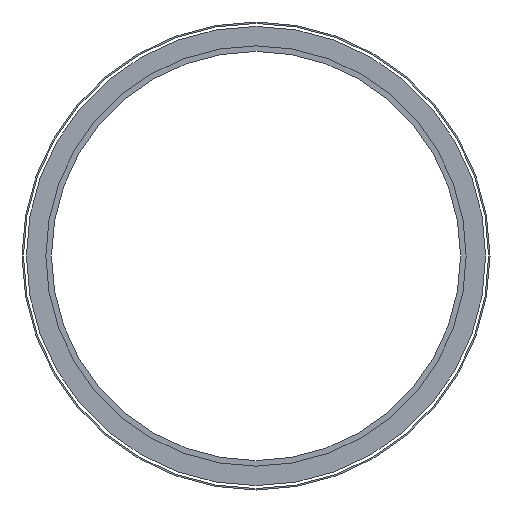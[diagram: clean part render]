
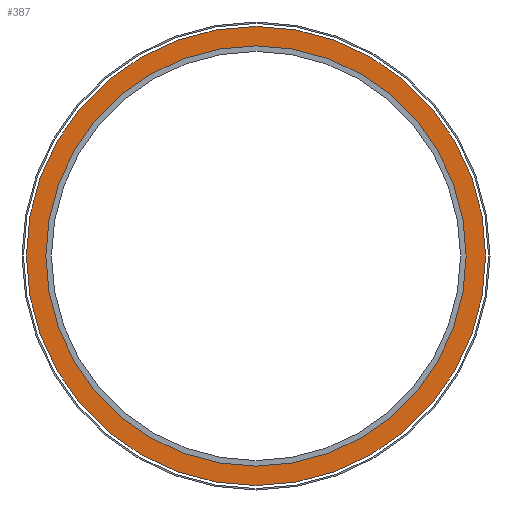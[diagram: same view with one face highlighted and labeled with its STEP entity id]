
A CAD part, front view. The second image highlights one B-rep face of the part: STEP entity #387.
In plain terms, the highlighted planar face has unit normal (0, -1, 0).
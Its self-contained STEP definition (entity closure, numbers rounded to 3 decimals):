
#235 = CYLINDRICAL_SURFACE('',#236,150.);
#236 = AXIS2_PLACEMENT_3D('',#237,#238,#239);
#237 = CARTESIAN_POINT('',(0.,340.,0.));
#238 = DIRECTION('',(-0.,-1.,0.));
#239 = DIRECTION('',(1.,0.,0.));
#282 = VERTEX_POINT('',#283);
#283 = CARTESIAN_POINT('',(150.,340.,0.));
#304 = EDGE_CURVE('',#282,#282,#305,.T.);
#305 = SURFACE_CURVE('',#306,(#311,#318),.PCURVE_S1.);
#306 = CIRCLE('',#307,150.);
#307 = AXIS2_PLACEMENT_3D('',#308,#309,#310);
#308 = CARTESIAN_POINT('',(0.,340.,0.));
#309 = DIRECTION('',(-0.,1.,0.));
#310 = DIRECTION('',(1.,0.,0.));
#311 = PCURVE('',#235,#312);
#312 = DEFINITIONAL_REPRESENTATION('',(#313),#317);
#313 = LINE('',#314,#315);
#314 = CARTESIAN_POINT('',(-0.,0.));
#315 = VECTOR('',#316,1.);
#316 = DIRECTION('',(-1.,0.));
#317 = ( GEOMETRIC_REPRESENTATION_CONTEXT(2) 
PARAMETRIC_REPRESENTATION_CONTEXT() REPRESENTATION_CONTEXT('2D SPACE',''
  ) );
#318 = PCURVE('',#319,#324);
#319 = PLANE('',#320);
#320 = AXIS2_PLACEMENT_3D('',#321,#322,#323);
#321 = CARTESIAN_POINT('',(0.,340.,0.));
#322 = DIRECTION('',(0.,1.,0.));
#323 = DIRECTION('',(1.,0.,0.));
#324 = DEFINITIONAL_REPRESENTATION('',(#325),#329);
#325 = CIRCLE('',#326,150.);
#326 = AXIS2_PLACEMENT_2D('',#327,#328);
#327 = CARTESIAN_POINT('',(0.,0.));
#328 = DIRECTION('',(1.,0.));
#329 = ( GEOMETRIC_REPRESENTATION_CONTEXT(2) 
PARAMETRIC_REPRESENTATION_CONTEXT() REPRESENTATION_CONTEXT('2D SPACE',''
  ) );
#387 = ADVANCED_FACE('',(#388,#419),#319,.F.);
#388 = FACE_BOUND('',#389,.F.);
#389 = EDGE_LOOP('',(#390));
#390 = ORIENTED_EDGE('',*,*,#391,.T.);
#391 = EDGE_CURVE('',#392,#392,#394,.T.);
#392 = VERTEX_POINT('',#393);
#393 = CARTESIAN_POINT('',(163.889,340.,0.));
#394 = SURFACE_CURVE('',#395,(#400,#407),.PCURVE_S1.);
#395 = CIRCLE('',#396,163.889);
#396 = AXIS2_PLACEMENT_3D('',#397,#398,#399);
#397 = CARTESIAN_POINT('',(0.,340.,0.));
#398 = DIRECTION('',(0.,1.,0.));
#399 = DIRECTION('',(1.,0.,-0.));
#400 = PCURVE('',#319,#401);
#401 = DEFINITIONAL_REPRESENTATION('',(#402),#406);
#402 = CIRCLE('',#403,163.889);
#403 = AXIS2_PLACEMENT_2D('',#404,#405);
#404 = CARTESIAN_POINT('',(0.,0.));
#405 = DIRECTION('',(1.,0.));
#406 = ( GEOMETRIC_REPRESENTATION_CONTEXT(2) 
PARAMETRIC_REPRESENTATION_CONTEXT() REPRESENTATION_CONTEXT('2D SPACE',''
  ) );
#407 = PCURVE('',#408,#413);
#408 = CONICAL_SURFACE('',#409,167.024,1.003);
#409 = AXIS2_PLACEMENT_3D('',#410,#411,#412);
#410 = CARTESIAN_POINT('',(0.,338.,0.));
#411 = DIRECTION('',(-0.,-1.,0.));
#412 = DIRECTION('',(1.,0.,0.));
#413 = DEFINITIONAL_REPRESENTATION('',(#414),#418);
#414 = LINE('',#415,#416);
#415 = CARTESIAN_POINT('',(-0.,-2.));
#416 = VECTOR('',#417,1.);
#417 = DIRECTION('',(-1.,-0.));
#418 = ( GEOMETRIC_REPRESENTATION_CONTEXT(2) 
PARAMETRIC_REPRESENTATION_CONTEXT() REPRESENTATION_CONTEXT('2D SPACE',''
  ) );
#419 = FACE_BOUND('',#420,.F.);
#420 = EDGE_LOOP('',(#421));
#421 = ORIENTED_EDGE('',*,*,#304,.F.);
